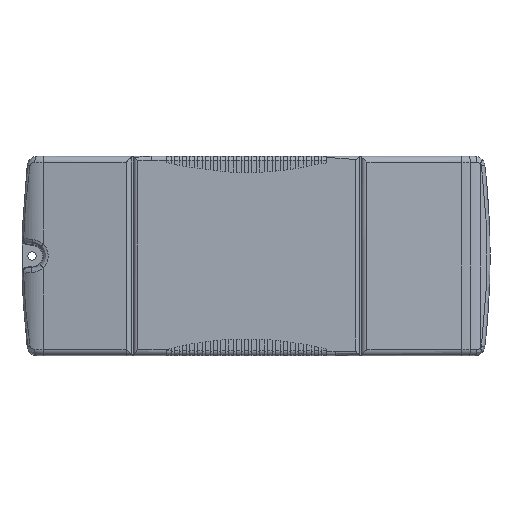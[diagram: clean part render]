
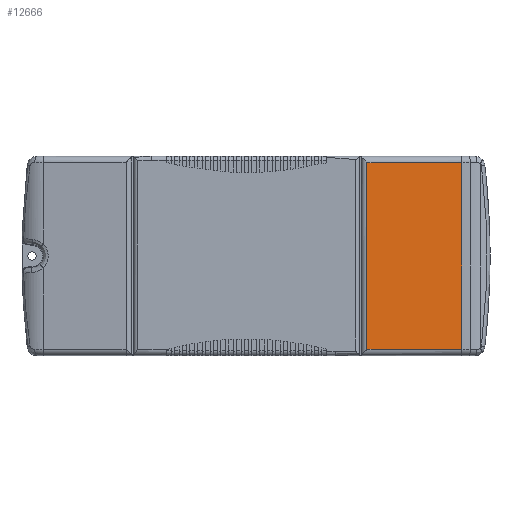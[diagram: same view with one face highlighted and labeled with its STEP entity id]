
A CAD part, top view. The second image highlights one B-rep face of the part: STEP entity #12666.
In plain terms, the highlighted planar face has unit normal (0.07, 0, 0.998).
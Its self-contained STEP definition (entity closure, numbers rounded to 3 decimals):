
#2517=DIRECTION('',(-0.998,0.,0.07));
#2518=VECTOR('',#2517,47.785);
#2519=CARTESIAN_POINT('',(215.877,-46.9,27.659));
#2520=LINE('',#2519,#2518);
#2524=DIRECTION('',(0.,1.,0.));
#2525=VECTOR('',#2524,93.8);
#2526=CARTESIAN_POINT('',(168.208,-46.9,30.992));
#2527=LINE('',#2526,#2525);
#2531=DIRECTION('',(0.998,0.,-0.07));
#2532=VECTOR('',#2531,47.785);
#2533=CARTESIAN_POINT('',(168.208,46.9,30.992));
#2534=LINE('',#2533,#2532);
#2538=DIRECTION('',(0.,1.,0.));
#2539=VECTOR('',#2538,93.8);
#2540=CARTESIAN_POINT('',(215.877,-46.9,27.659));
#2541=LINE('',#2540,#2539);
#11145=CARTESIAN_POINT('',(215.877,-46.9,27.659));
#11146=CARTESIAN_POINT('',(168.208,-46.9,30.992));
#11147=VERTEX_POINT('',#11145);
#11148=VERTEX_POINT('',#11146);
#11177=CARTESIAN_POINT('',(215.877,46.9,27.659));
#11178=VERTEX_POINT('',#11177);
#11181=CARTESIAN_POINT('',(168.208,46.9,30.992));
#11182=VERTEX_POINT('',#11181);
#12654=CARTESIAN_POINT('',(215.877,-60.,27.659));
#12655=DIRECTION('',(-0.07,0.,-0.998));
#12656=DIRECTION('',(-0.998,0.,0.07));
#12657=AXIS2_PLACEMENT_3D('',#12654,#12655,#12656);
#12658=PLANE('',#12657);
#12659=ORIENTED_EDGE('',*,*,#12613,.T.);
#12660=ORIENTED_EDGE('',*,*,#12647,.T.);
#12661=ORIENTED_EDGE('',*,*,#12564,.T.);
#12663=ORIENTED_EDGE('',*,*,#12662,.F.);
#12664=EDGE_LOOP('',(#12659,#12660,#12661,#12663));
#12665=FACE_OUTER_BOUND('',#12664,.F.);
#12564=EDGE_CURVE('',#11182,#11178,#2534,.T.);
#12613=EDGE_CURVE('',#11147,#11148,#2520,.T.);
#12647=EDGE_CURVE('',#11148,#11182,#2527,.T.);
#12662=EDGE_CURVE('',#11147,#11178,#2541,.T.);
#12666=ADVANCED_FACE('',(#12665),#12658,.F.);
